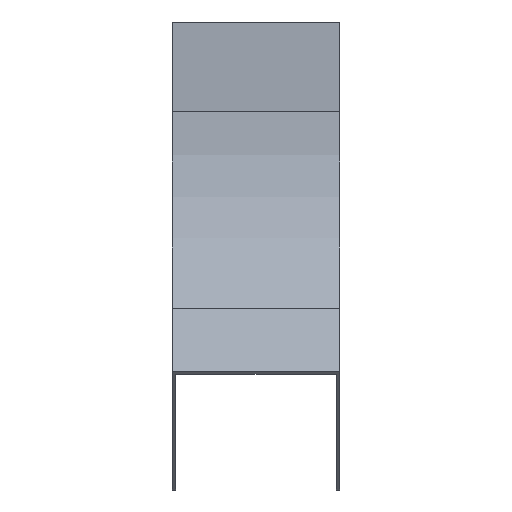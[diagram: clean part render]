
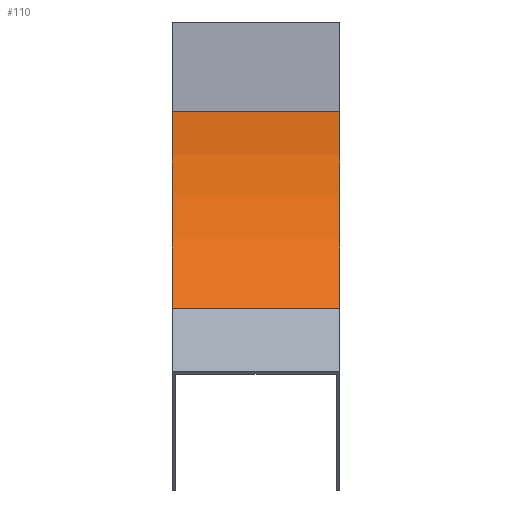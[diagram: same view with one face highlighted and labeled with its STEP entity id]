
A CAD part, front view. The second image highlights one B-rep face of the part: STEP entity #110.
In plain terms, the highlighted cylindrical face has radius 125 mm (diameter 250 mm), a partial arc.
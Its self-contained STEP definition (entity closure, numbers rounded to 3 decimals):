
#31 = LINE ( 'NONE', #837, #1622 ) ;
#90 = CARTESIAN_POINT ( 'NONE',  ( 37.5, 0., -40. ) ) ;
#108 = ORIENTED_EDGE ( 'NONE', *, *, #580, .T. ) ;
#110 = ADVANCED_FACE ( 'NONE', ( #509 ), #1558, .F. ) ;
#130 = CARTESIAN_POINT ( 'NONE',  ( -37.5, 0., -40. ) ) ;
#131 = AXIS2_PLACEMENT_3D ( 'NONE', #1562, #800, #151 ) ;
#151 = DIRECTION ( 'NONE',  ( 0., 0., 1. ) ) ;
#239 = CIRCLE ( 'NONE', #131, 125. ) ;
#333 = EDGE_CURVE ( 'NONE', #957, #987, #548, .T. ) ;
#396 = DIRECTION ( 'NONE',  ( -1., 0., 0. ) ) ;
#433 = EDGE_LOOP ( 'NONE', ( #878, #1024, #1033, #108 ) ) ;
#498 = CARTESIAN_POINT ( 'NONE',  ( -37.5, -36.612, -128.388 ) ) ;
#509 = FACE_OUTER_BOUND ( 'NONE', #433, .T. ) ;
#548 = LINE ( 'NONE', #1094, #1395 ) ;
#580 = EDGE_CURVE ( 'NONE', #644, #988, #31, .T. ) ;
#611 = EDGE_CURVE ( 'NONE', #644, #957, #239, .T. ) ;
#644 = VERTEX_POINT ( 'NONE', #90 ) ;
#681 = CIRCLE ( 'NONE', #1379, 125. ) ;
#704 = DIRECTION ( 'NONE',  ( -1., 0., 0. ) ) ;
#800 = DIRECTION ( 'NONE',  ( -1., 0., 0. ) ) ;
#837 = CARTESIAN_POINT ( 'NONE',  ( 37.5, 0., -40. ) ) ;
#878 = ORIENTED_EDGE ( 'NONE', *, *, #1604, .T. ) ;
#893 = AXIS2_PLACEMENT_3D ( 'NONE', #1048, #1653, #1011 ) ;
#900 = CARTESIAN_POINT ( 'NONE',  ( 37.5, -36.612, -128.388 ) ) ;
#916 = DIRECTION ( 'NONE',  ( 0., 0., 1. ) ) ;
#957 = VERTEX_POINT ( 'NONE', #900 ) ;
#963 = DIRECTION ( 'NONE',  ( -1., 0., 0. ) ) ;
#987 = VERTEX_POINT ( 'NONE', #498 ) ;
#988 = VERTEX_POINT ( 'NONE', #130 ) ;
#1011 = DIRECTION ( 'NONE',  ( 0., 0., 1. ) ) ;
#1024 = ORIENTED_EDGE ( 'NONE', *, *, #333, .F. ) ;
#1033 = ORIENTED_EDGE ( 'NONE', *, *, #611, .F. ) ;
#1048 = CARTESIAN_POINT ( 'NONE',  ( 37.5, -125., -40. ) ) ;
#1094 = CARTESIAN_POINT ( 'NONE',  ( 37.5, -36.612, -128.388 ) ) ;
#1379 = AXIS2_PLACEMENT_3D ( 'NONE', #1552, #396, #916 ) ;
#1395 = VECTOR ( 'NONE', #704, 1000. ) ;
#1552 = CARTESIAN_POINT ( 'NONE',  ( -37.5, -125., -40. ) ) ;
#1558 = CYLINDRICAL_SURFACE ( 'NONE', #893, 125. ) ;
#1562 = CARTESIAN_POINT ( 'NONE',  ( 37.5, -125., -40. ) ) ;
#1604 = EDGE_CURVE ( 'NONE', #988, #987, #681, .T. ) ;
#1622 = VECTOR ( 'NONE', #963, 1000. ) ;
#1653 = DIRECTION ( 'NONE',  ( -1., 0., 0. ) ) ;
